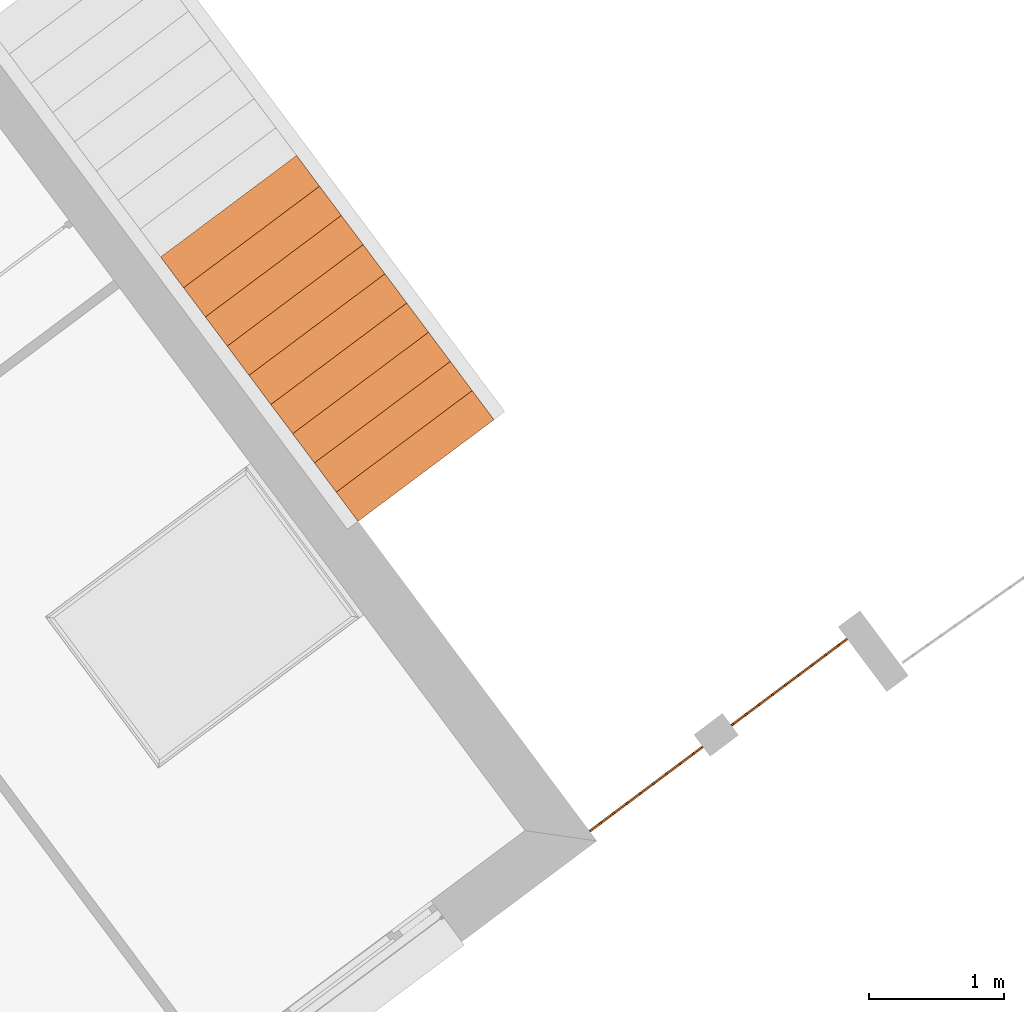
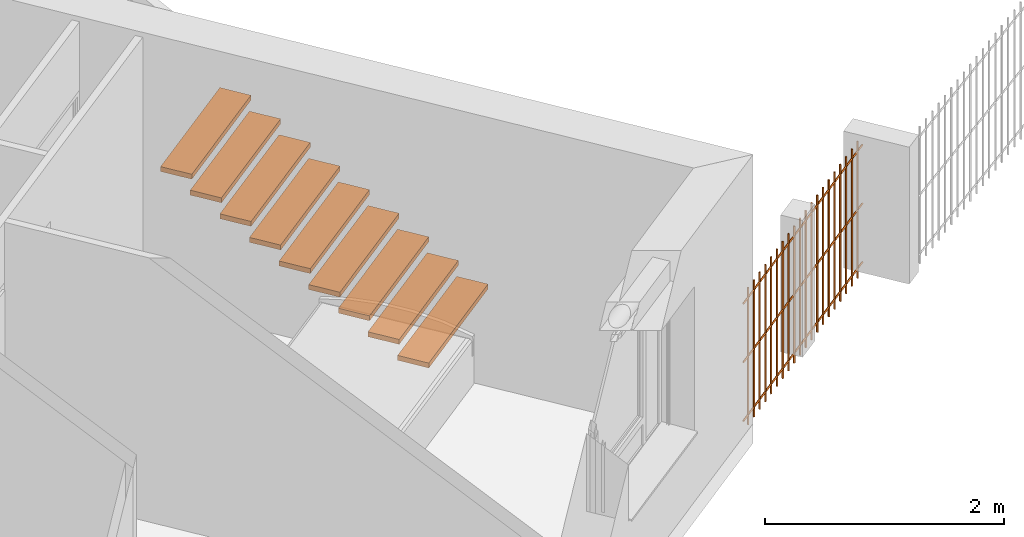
# One storey, part 184 of 195: 19 proxies, 2 elements without a shape of their own.
"""IFC2X3 building model written with IfcOpenShell, lengths in metres."""

from ifc_helpers import new_model, entity, si_unit, converted_unit, derived_unit, money_unit, direction, frame, origin_with_axes, place, context, subcontext, project, spatial, faceted_brep, material, type_object, element, aggregate, save


model = new_model("IFC2X3")

# Units and contexts
model_context = context("Model", 3, precision=1e-05, world=origin_with_axes(), true_north=direction((0.0, 1.0)))
body_context = subcontext(model_context, "Body", "Model", "MODEL_VIEW")
ifc_project = project(units=[si_unit("LENGTHUNIT", "METRE"), si_unit("AREAUNIT", "SQUARE_METRE"), si_unit("VOLUMEUNIT", "CUBIC_METRE"), converted_unit("PLANEANGLEUNIT", "DEGREE", entity("IfcPlaneAngleMeasure", 0.0174532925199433), si_unit("PLANEANGLEUNIT", "RADIAN"), dimensions=[0, 0, 0, 0, 0, 0, 0]), money_unit("CHF"), converted_unit("TIMEUNIT", "Year", entity("IfcTimeMeasure", 31557600.0), si_unit("TIMEUNIT", "SECOND"), dimensions=[0, 0, 1, 0, 0, 0, 0]), si_unit("MASSUNIT", "GRAM", prefix="KILO"), si_unit("THERMODYNAMICTEMPERATUREUNIT", "DEGREE_CELSIUS"), si_unit("LUMINOUSINTENSITYUNIT", "LUMEN"), si_unit("ENERGYUNIT", "JOULE", prefix="MEGA"), derived_unit("THERMALCONDUCTANCEUNIT", [(si_unit("POWERUNIT", "WATT"), 1), (si_unit("LENGTHUNIT", "METRE"), -1), (si_unit("THERMODYNAMICTEMPERATUREUNIT", "KELVIN"), -1)]), derived_unit("SPECIFICHEATCAPACITYUNIT", [(si_unit("ENERGYUNIT", "JOULE"), 1), (si_unit("MASSUNIT", "GRAM", prefix="KILO"), -1), (si_unit("THERMODYNAMICTEMPERATUREUNIT", "KELVIN"), -1)]), derived_unit("MASSDENSITYUNIT", [(si_unit("MASSUNIT", "GRAM", prefix="KILO"), 1), (si_unit("VOLUMEUNIT", "CUBIC_METRE"), -1)])], contexts=[model_context])

# Site, building, storey
site_placement = place(None, origin_with_axes())
site = spatial("IfcSite", under=ifc_project, at=site_placement, Name="Site", CompositionType="ELEMENT")
building_placement = place(site_placement, origin_with_axes())
building = spatial("IfcBuilding", under=site, at=building_placement, Name="Bâtiment", CompositionType="ELEMENT")
storey_placement = place(building_placement, origin_with_axes())
storey = spatial("IfcBuildingStorey", under=building, at=storey_placement, Name="rdc", CompositionType="ELEMENT", Elevation=0.0)

# Stair, proxies
stair_1_placement = place(storey_placement, frame((9546.930300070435, -1076.908665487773, 57.33248236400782), z_axis=(0.0, 0.0, 1.0), x_axis=(0.7879032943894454, -0.6157989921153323, 0.0)))
stair_1 = element("IfcStair", 1, at=stair_1_placement, inside=storey, Name="ESC-028", ShapeType="NOTDEFINED")
ifc_material = material(Name="Lame d'air 275581351")
building_element_proxy_type_1 = type_object("IfcBuildingElementProxyType", Name="IfcBuildingElementProxy", PredefinedType="NOTDEFINED")
proxy_1_placement = place(stair_1_placement, frame((-0.1274260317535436, -0.4679611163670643, 0.1666666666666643), z_axis=(0.0, 0.0, 1.0), x_axis=(-0.2627340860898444, -0.9648682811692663, 0.0)))
proxy_1 = element("IfcBuildingElementProxy", 2, at=proxy_1_placement, type_object=building_element_proxy_type_1, material=ifc_material, Name="MARCHE-537", context=body_context, shape_type="Brep", body=[
    faceted_brep([(-0.4850000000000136, 0.0, -0.04999999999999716), (-0.4850000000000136, 0.0, 0.0), (0.7724423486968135, -2.853539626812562e-10, 0.0), (0.7724423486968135, -2.853539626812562e-10, -0.04999999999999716), (-0.4849999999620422, -0.2849999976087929, -0.04999999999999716), (-0.4849999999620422, -0.2849999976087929, 0.0), (0.7724423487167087, -0.2849999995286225, 0.0), (0.7724423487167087, -0.2849999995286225, -0.04999999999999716)], [[[0, 1, 2, 3]], [[4, 5, 1, 0]], [[1, 5, 6, 2]], [[3, 2, 6, 7]], [[0, 3, 7, 4]], [[7, 6, 5, 4]]]),
])
proxy_2_placement = place(stair_1_placement, frame((-0.387940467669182, -0.3970229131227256, 0.3333333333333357), z_axis=(0.0, 0.0, 1.0), x_axis=(-0.2627340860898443, -0.9648682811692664, 0.0)))
proxy_2 = element("IfcBuildingElementProxy", 3, at=proxy_2_placement, type_object=building_element_proxy_type_1, material=ifc_material, Name="MARCHE-538", context=body_context, shape_type="Brep", body=[
    faceted_brep([(-0.4849999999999, 0.0, -0.04999999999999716), (-0.4849999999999, 0.0, 0.0), (0.7724423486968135, -2.852402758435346e-10, 0.0), (0.7724423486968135, -2.852402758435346e-10, -0.04999999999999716), (-0.4849999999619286, -0.2849999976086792, -0.04999999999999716), (-0.4849999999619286, -0.2849999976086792, 0.0), (0.7724423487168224, -0.2849999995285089, 0.0), (0.7724423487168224, -0.2849999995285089, -0.04999999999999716)], [[[0, 1, 2, 3]], [[4, 5, 1, 0]], [[1, 5, 6, 2]], [[3, 2, 6, 7]], [[0, 3, 7, 4]], [[7, 6, 5, 4]]]),
])
proxy_3_placement = place(stair_1_placement, frame((-0.6484549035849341, -0.3260847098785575, 0.5), z_axis=(0.0, 0.0, 1.0), x_axis=(-0.2627340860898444, -0.9648682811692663, 0.0)))
proxy_3 = element("IfcBuildingElementProxy", 4, at=proxy_3_placement, type_object=building_element_proxy_type_1, material=ifc_material, Name="MARCHE-539", context=body_context, shape_type="Brep", body=[
    faceted_brep([(-0.4849999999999, 0.0, -0.04999999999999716), (-0.4849999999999, 0.0, 0.0), (0.7724423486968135, -2.854676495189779e-10, 0.0), (0.7724423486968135, -2.854676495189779e-10, -0.04999999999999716), (-0.4849999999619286, -0.2849999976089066, -0.04999999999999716), (-0.4849999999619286, -0.2849999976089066, 0.0), (0.7724423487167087, -0.2849999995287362, 0.0), (0.7724423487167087, -0.2849999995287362, -0.04999999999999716)], [[[0, 1, 2, 3]], [[4, 5, 1, 0]], [[1, 5, 6, 2]], [[3, 2, 6, 7]], [[0, 3, 7, 4]], [[7, 6, 5, 4]]]),
])
proxy_4_placement = place(stair_1_placement, frame((-0.9089693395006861, -0.2551465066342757, 0.6666666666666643), z_axis=(0.0, 0.0, 1.0), x_axis=(-0.2627340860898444, -0.9648682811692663, 0.0)))
proxy_4 = element("IfcBuildingElementProxy", 5, at=proxy_4_placement, type_object=building_element_proxy_type_1, material=ifc_material, Name="MARCHE-540", context=body_context, shape_type="Brep", body=[
    faceted_brep([(-0.4850000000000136, 0.0, -0.04999999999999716), (-0.4850000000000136, 0.0, 0.0), (0.7724423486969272, -2.852402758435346e-10, 0.0), (0.7724423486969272, -2.852402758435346e-10, -0.04999999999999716), (-0.4849999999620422, -0.2849999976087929, -0.04999999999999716), (-0.4849999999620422, -0.2849999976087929, 0.0), (0.7724423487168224, -0.2849999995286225, 0.0), (0.7724423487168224, -0.2849999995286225, -0.04999999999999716)], [[[0, 1, 2, 3]], [[4, 5, 1, 0]], [[1, 5, 6, 2]], [[3, 2, 6, 7]], [[0, 3, 7, 4]], [[7, 6, 5, 4]]]),
])
proxy_5_placement = place(stair_1_placement, frame((-1.169483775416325, -0.1842083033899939, 0.8333333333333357), z_axis=(0.0, 0.0, 1.0), x_axis=(-0.2627340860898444, -0.9648682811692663, 0.0)))
proxy_5 = element("IfcBuildingElementProxy", 6, at=proxy_5_placement, type_object=building_element_proxy_type_1, material=ifc_material, Name="MARCHE-541", context=body_context, shape_type="Brep", body=[
    faceted_brep([(-0.4850000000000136, 0.0, -0.04999999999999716), (-0.4850000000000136, 0.0, 0.0), (0.7724423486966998, -2.853539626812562e-10, 0.0), (0.7724423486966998, -2.853539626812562e-10, -0.04999999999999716), (-0.4849999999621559, -0.2849999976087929, -0.04999999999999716), (-0.4849999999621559, -0.2849999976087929, 0.0), (0.772442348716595, -0.2849999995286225, 0.0), (0.772442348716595, -0.2849999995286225, -0.04999999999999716)], [[[0, 1, 2, 3]], [[4, 5, 1, 0]], [[1, 5, 6, 2]], [[3, 2, 6, 7]], [[0, 3, 7, 4]], [[7, 6, 5, 4]]]),
])
proxy_6_placement = place(stair_1_placement, frame((-1.429998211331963, -0.113270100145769, 1.0), z_axis=(0.0, 0.0, 1.0), x_axis=(-0.2627340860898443, -0.9648682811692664, 0.0)))
proxy_6 = element("IfcBuildingElementProxy", 7, at=proxy_6_placement, type_object=building_element_proxy_type_1, material=ifc_material, Name="MARCHE-542", context=body_context, shape_type="Brep", body=[
    faceted_brep([(-0.4850000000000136, 0.0, -0.04999999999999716), (-0.4850000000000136, 0.0, 0.0), (0.7724423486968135, -2.853539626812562e-10, 0.0), (0.7724423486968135, -2.853539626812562e-10, -0.04999999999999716), (-0.4849999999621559, -0.2849999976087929, -0.04999999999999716), (-0.4849999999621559, -0.2849999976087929, 0.0), (0.7724423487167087, -0.2849999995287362, 0.0), (0.7724423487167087, -0.2849999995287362, -0.04999999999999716)], [[[0, 1, 2, 3]], [[4, 5, 1, 0]], [[1, 5, 6, 2]], [[3, 2, 6, 7]], [[0, 3, 7, 4]], [[7, 6, 5, 4]]]),
])
proxy_7_placement = place(stair_1_placement, frame((-1.690512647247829, -0.0423318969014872, 1.166666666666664), z_axis=(0.0, 0.0, 1.0), x_axis=(-0.2627340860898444, -0.9648682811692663, 0.0)))
proxy_7 = element("IfcBuildingElementProxy", 8, at=proxy_7_placement, type_object=building_element_proxy_type_1, material=ifc_material, Name="MARCHE-543", context=body_context, shape_type="Brep", body=[
    faceted_brep([(-0.4849999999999, 0.0, -0.04999999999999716), (-0.4849999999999, 0.0, 0.0), (0.7724423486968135, -2.854676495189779e-10, 0.0), (0.7724423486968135, -2.854676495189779e-10, -0.04999999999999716), (-0.4849999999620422, -0.2849999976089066, -0.04999999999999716), (-0.4849999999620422, -0.2849999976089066, 0.0), (0.7724423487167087, -0.2849999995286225, 0.0), (0.7724423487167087, -0.2849999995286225, -0.04999999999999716)], [[[0, 1, 2, 3]], [[4, 5, 1, 0]], [[1, 5, 6, 2]], [[3, 2, 6, 7]], [[0, 3, 7, 4]], [[7, 6, 5, 4]]]),
])
proxy_8_placement = place(stair_1_placement, frame((-2.211541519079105, 0.09954450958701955, 1.5), z_axis=(0.0, 0.0, 1.0), x_axis=(-0.2627340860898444, -0.9648682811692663, 0.0)))
proxy_8 = element("IfcBuildingElementProxy", 9, at=proxy_8_placement, type_object=building_element_proxy_type_1, material=ifc_material, Name="MARCHE-545", context=body_context, shape_type="Brep", body=[
    faceted_brep([(-0.4850000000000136, 0.0, -0.04999999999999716), (-0.4850000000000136, 0.0, 0.0), (0.7724423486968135, -2.853539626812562e-10, 0.0), (0.7724423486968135, -2.853539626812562e-10, -0.04999999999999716), (-0.4849999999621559, -0.2849999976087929, -0.04999999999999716), (-0.4849999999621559, -0.2849999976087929, 0.0), (0.7724423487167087, -0.2849999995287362, 0.0), (0.7724423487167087, -0.2849999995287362, -0.04999999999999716)], [[[0, 1, 2, 3]], [[4, 5, 1, 0]], [[1, 5, 6, 2]], [[3, 2, 6, 7]], [[0, 3, 7, 4]], [[7, 6, 5, 4]]]),
])
proxy_9_placement = place(stair_1_placement, frame((-1.951027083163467, 0.02860630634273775, 1.333333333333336), z_axis=(0.0, 0.0, 1.0), x_axis=(-0.2627340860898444, -0.9648682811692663, 0.0)))
proxy_9 = element("IfcBuildingElementProxy", 10, at=proxy_9_placement, type_object=building_element_proxy_type_1, material=ifc_material, Name="MARCHE-544", context=body_context, shape_type="Brep", body=[
    faceted_brep([(-0.4849999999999, 0.0, -0.04999999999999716), (-0.4849999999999, 0.0, 0.0), (0.7724423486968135, -2.854676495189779e-10, 0.0), (0.7724423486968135, -2.854676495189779e-10, -0.04999999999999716), (-0.4849999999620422, -0.2849999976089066, -0.04999999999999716), (-0.4849999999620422, -0.2849999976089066, 0.0), (0.7724423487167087, -0.2849999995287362, 0.0), (0.7724423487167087, -0.2849999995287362, -0.04999999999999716)], [[[0, 1, 2, 3]], [[4, 5, 1, 0]], [[1, 5, 6, 2]], [[3, 2, 6, 7]], [[0, 3, 7, 4]], [[7, 6, 5, 4]]]),
])
aggregate(stair_1, [proxy_1, proxy_2, proxy_3, proxy_4, proxy_5, proxy_6, proxy_7, proxy_8, proxy_9])

stair_2_placement = place(storey_placement, frame((9546.930300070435, -1076.908665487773, 57.33248236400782), z_axis=(0.0, 0.0, 1.0), x_axis=(0.7879032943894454, -0.6157989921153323, 0.0)))
stair_2 = element("IfcStair", 11, at=stair_2_placement, inside=storey, Name="ESC-028", ShapeType="NOTDEFINED")
proxy_10_placement = place(stair_2_placement, frame((-0.1274260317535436, -0.4679611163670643, 0.1666666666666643), z_axis=(0.0, 0.0, 1.0), x_axis=(-0.2627340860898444, -0.9648682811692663, 0.0)))
proxy_10 = element("IfcBuildingElementProxy", 12, at=proxy_10_placement, type_object=building_element_proxy_type_1, material=ifc_material, Name="MARCHE-537", context=body_context, shape_type="Brep", body=[
    faceted_brep([(-0.4850000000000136, 0.0, -0.04999999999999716), (-0.4850000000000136, 0.0, 0.0), (0.7724423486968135, -2.853539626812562e-10, 0.0), (0.7724423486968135, -2.853539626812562e-10, -0.04999999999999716), (-0.4849999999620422, -0.2849999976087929, -0.04999999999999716), (-0.4849999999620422, -0.2849999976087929, 0.0), (0.7724423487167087, -0.2849999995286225, 0.0), (0.7724423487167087, -0.2849999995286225, -0.04999999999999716)], [[[0, 1, 2, 3]], [[4, 5, 1, 0]], [[1, 5, 6, 2]], [[3, 2, 6, 7]], [[0, 3, 7, 4]], [[7, 6, 5, 4]]]),
])
proxy_11_placement = place(stair_2_placement, frame((-0.9089693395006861, -0.2551465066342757, 0.6666666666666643), z_axis=(0.0, 0.0, 1.0), x_axis=(-0.2627340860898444, -0.9648682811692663, 0.0)))
proxy_11 = element("IfcBuildingElementProxy", 13, at=proxy_11_placement, type_object=building_element_proxy_type_1, material=ifc_material, Name="MARCHE-540", context=body_context, shape_type="Brep", body=[
    faceted_brep([(-0.4850000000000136, 0.0, -0.04999999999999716), (-0.4850000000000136, 0.0, 0.0), (0.7724423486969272, -2.852402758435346e-10, 0.0), (0.7724423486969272, -2.852402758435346e-10, -0.04999999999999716), (-0.4849999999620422, -0.2849999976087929, -0.04999999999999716), (-0.4849999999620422, -0.2849999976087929, 0.0), (0.7724423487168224, -0.2849999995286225, 0.0), (0.7724423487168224, -0.2849999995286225, -0.04999999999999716)], [[[0, 1, 2, 3]], [[4, 5, 1, 0]], [[1, 5, 6, 2]], [[3, 2, 6, 7]], [[0, 3, 7, 4]], [[7, 6, 5, 4]]]),
])
proxy_12_placement = place(stair_2_placement, frame((-0.6484549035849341, -0.3260847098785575, 0.5), z_axis=(0.0, 0.0, 1.0), x_axis=(-0.2627340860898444, -0.9648682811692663, 0.0)))
proxy_12 = element("IfcBuildingElementProxy", 14, at=proxy_12_placement, type_object=building_element_proxy_type_1, material=ifc_material, Name="MARCHE-539", context=body_context, shape_type="Brep", body=[
    faceted_brep([(-0.4849999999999, 0.0, -0.04999999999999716), (-0.4849999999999, 0.0, 0.0), (0.7724423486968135, -2.854676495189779e-10, 0.0), (0.7724423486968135, -2.854676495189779e-10, -0.04999999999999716), (-0.4849999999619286, -0.2849999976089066, -0.04999999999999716), (-0.4849999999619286, -0.2849999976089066, 0.0), (0.7724423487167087, -0.2849999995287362, 0.0), (0.7724423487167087, -0.2849999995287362, -0.04999999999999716)], [[[0, 1, 2, 3]], [[4, 5, 1, 0]], [[1, 5, 6, 2]], [[3, 2, 6, 7]], [[0, 3, 7, 4]], [[7, 6, 5, 4]]]),
])
proxy_13_placement = place(stair_2_placement, frame((-1.169483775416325, -0.1842083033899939, 0.8333333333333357), z_axis=(0.0, 0.0, 1.0), x_axis=(-0.2627340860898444, -0.9648682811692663, 0.0)))
proxy_13 = element("IfcBuildingElementProxy", 15, at=proxy_13_placement, type_object=building_element_proxy_type_1, material=ifc_material, Name="MARCHE-541", context=body_context, shape_type="Brep", body=[
    faceted_brep([(-0.4850000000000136, 0.0, -0.04999999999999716), (-0.4850000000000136, 0.0, 0.0), (0.7724423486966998, -2.853539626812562e-10, 0.0), (0.7724423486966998, -2.853539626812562e-10, -0.04999999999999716), (-0.4849999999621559, -0.2849999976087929, -0.04999999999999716), (-0.4849999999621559, -0.2849999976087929, 0.0), (0.772442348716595, -0.2849999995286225, 0.0), (0.772442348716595, -0.2849999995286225, -0.04999999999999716)], [[[0, 1, 2, 3]], [[4, 5, 1, 0]], [[1, 5, 6, 2]], [[3, 2, 6, 7]], [[0, 3, 7, 4]], [[7, 6, 5, 4]]]),
])
proxy_14_placement = place(stair_2_placement, frame((-1.429998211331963, -0.113270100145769, 1.0), z_axis=(0.0, 0.0, 1.0), x_axis=(-0.2627340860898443, -0.9648682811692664, 0.0)))
proxy_14 = element("IfcBuildingElementProxy", 16, at=proxy_14_placement, type_object=building_element_proxy_type_1, material=ifc_material, Name="MARCHE-542", context=body_context, shape_type="Brep", body=[
    faceted_brep([(-0.4850000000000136, 0.0, -0.04999999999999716), (-0.4850000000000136, 0.0, 0.0), (0.7724423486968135, -2.853539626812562e-10, 0.0), (0.7724423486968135, -2.853539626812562e-10, -0.04999999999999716), (-0.4849999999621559, -0.2849999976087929, -0.04999999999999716), (-0.4849999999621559, -0.2849999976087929, 0.0), (0.7724423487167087, -0.2849999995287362, 0.0), (0.7724423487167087, -0.2849999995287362, -0.04999999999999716)], [[[0, 1, 2, 3]], [[4, 5, 1, 0]], [[1, 5, 6, 2]], [[3, 2, 6, 7]], [[0, 3, 7, 4]], [[7, 6, 5, 4]]]),
])
proxy_15_placement = place(stair_2_placement, frame((-0.387940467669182, -0.3970229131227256, 0.3333333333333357), z_axis=(0.0, 0.0, 1.0), x_axis=(-0.2627340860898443, -0.9648682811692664, 0.0)))
proxy_15 = element("IfcBuildingElementProxy", 17, at=proxy_15_placement, type_object=building_element_proxy_type_1, material=ifc_material, Name="MARCHE-538", context=body_context, shape_type="Brep", body=[
    faceted_brep([(-0.4849999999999, 0.0, -0.04999999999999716), (-0.4849999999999, 0.0, 0.0), (0.7724423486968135, -2.852402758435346e-10, 0.0), (0.7724423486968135, -2.852402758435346e-10, -0.04999999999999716), (-0.4849999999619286, -0.2849999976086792, -0.04999999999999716), (-0.4849999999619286, -0.2849999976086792, 0.0), (0.7724423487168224, -0.2849999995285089, 0.0), (0.7724423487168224, -0.2849999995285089, -0.04999999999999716)], [[[0, 1, 2, 3]], [[4, 5, 1, 0]], [[1, 5, 6, 2]], [[3, 2, 6, 7]], [[0, 3, 7, 4]], [[7, 6, 5, 4]]]),
])
proxy_16_placement = place(stair_2_placement, frame((-1.690512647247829, -0.0423318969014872, 1.166666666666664), z_axis=(0.0, 0.0, 1.0), x_axis=(-0.2627340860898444, -0.9648682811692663, 0.0)))
proxy_16 = element("IfcBuildingElementProxy", 18, at=proxy_16_placement, type_object=building_element_proxy_type_1, material=ifc_material, Name="MARCHE-543", context=body_context, shape_type="Brep", body=[
    faceted_brep([(-0.4849999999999, 0.0, -0.04999999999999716), (-0.4849999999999, 0.0, 0.0), (0.7724423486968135, -2.854676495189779e-10, 0.0), (0.7724423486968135, -2.854676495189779e-10, -0.04999999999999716), (-0.4849999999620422, -0.2849999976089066, -0.04999999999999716), (-0.4849999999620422, -0.2849999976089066, 0.0), (0.7724423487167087, -0.2849999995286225, 0.0), (0.7724423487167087, -0.2849999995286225, -0.04999999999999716)], [[[0, 1, 2, 3]], [[4, 5, 1, 0]], [[1, 5, 6, 2]], [[3, 2, 6, 7]], [[0, 3, 7, 4]], [[7, 6, 5, 4]]]),
])
proxy_17_placement = place(stair_2_placement, frame((-2.211541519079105, 0.09954450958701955, 1.5), z_axis=(0.0, 0.0, 1.0), x_axis=(-0.2627340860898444, -0.9648682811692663, 0.0)))
proxy_17 = element("IfcBuildingElementProxy", 19, at=proxy_17_placement, type_object=building_element_proxy_type_1, material=ifc_material, Name="MARCHE-545", context=body_context, shape_type="Brep", body=[
    faceted_brep([(-0.4850000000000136, 0.0, -0.04999999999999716), (-0.4850000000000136, 0.0, 0.0), (0.7724423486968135, -2.853539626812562e-10, 0.0), (0.7724423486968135, -2.853539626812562e-10, -0.04999999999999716), (-0.4849999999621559, -0.2849999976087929, -0.04999999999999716), (-0.4849999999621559, -0.2849999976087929, 0.0), (0.7724423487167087, -0.2849999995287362, 0.0), (0.7724423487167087, -0.2849999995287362, -0.04999999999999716)], [[[0, 1, 2, 3]], [[4, 5, 1, 0]], [[1, 5, 6, 2]], [[3, 2, 6, 7]], [[0, 3, 7, 4]], [[7, 6, 5, 4]]]),
])
proxy_18_placement = place(stair_2_placement, frame((-1.951027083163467, 0.02860630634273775, 1.333333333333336), z_axis=(0.0, 0.0, 1.0), x_axis=(-0.2627340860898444, -0.9648682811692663, 0.0)))
proxy_18 = element("IfcBuildingElementProxy", 20, at=proxy_18_placement, type_object=building_element_proxy_type_1, material=ifc_material, Name="MARCHE-544", context=body_context, shape_type="Brep", body=[
    faceted_brep([(-0.4849999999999, 0.0, -0.04999999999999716), (-0.4849999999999, 0.0, 0.0), (0.7724423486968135, -2.854676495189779e-10, 0.0), (0.7724423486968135, -2.854676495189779e-10, -0.04999999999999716), (-0.4849999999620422, -0.2849999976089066, -0.04999999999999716), (-0.4849999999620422, -0.2849999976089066, 0.0), (0.7724423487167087, -0.2849999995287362, 0.0), (0.7724423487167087, -0.2849999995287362, -0.04999999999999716)], [[[0, 1, 2, 3]], [[4, 5, 1, 0]], [[1, 5, 6, 2]], [[3, 2, 6, 7]], [[0, 3, 7, 4]], [[7, 6, 5, 4]]]),
])
aggregate(stair_2, [proxy_10, proxy_11, proxy_12, proxy_13, proxy_14, proxy_15, proxy_16, proxy_17, proxy_18])

# Proxy
building_element_proxy_type_2 = type_object("IfcBuildingElementProxyType", Name="Grille anti-effraction", PredefinedType="NOTDEFINED")
proxy_19_placement = place(storey_placement, frame((9548.650055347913, -1079.202436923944, 57.6), z_axis=(0.0, 0.0, 1.0), x_axis=(-0.801162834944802, -0.598446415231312, 0.0)))
element("IfcBuildingElementProxy", 21, at=proxy_19_placement, inside=storey, type_object=building_element_proxy_type_2, Name="Obj.-010", context=body_context, shape_type="Brep", body=[
    faceted_brep([(1.262547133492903, -0.01, 0.1), (1.262547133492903, 0.0, 0.09000000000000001), (1.262547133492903, 0.01, 0.1), (1.262547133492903, 0.0, 0.11), (-1.262547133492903, -0.01, 0.1000000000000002), (-1.262547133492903, 0.0, 0.09000000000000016), (-1.262547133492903, 0.01, 0.1000000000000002), (-1.262547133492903, 0.0, 0.1100000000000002)], [[[0, 1, 2, 3]], [[0, 4, 5, 1]], [[1, 5, 6, 2]], [[2, 6, 7, 3]], [[3, 7, 4, 0]], [[4, 7, 6, 5]]]),
    faceted_brep([(1.262547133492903, -0.01, 0.7), (1.262547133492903, 0.0, 0.69), (1.262547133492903, 0.01, 0.7), (1.262547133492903, 0.0, 0.71), (-1.262547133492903, -0.01, 0.7000000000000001), (-1.262547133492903, 0.0, 0.6900000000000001), (-1.262547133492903, 0.01, 0.7000000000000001), (-1.262547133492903, 0.0, 0.7100000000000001)], [[[0, 1, 2, 3]], [[0, 4, 5, 1]], [[1, 5, 6, 2]], [[2, 6, 7, 3]], [[3, 7, 4, 0]], [[4, 7, 6, 5]]]),
    faceted_brep([(1.262547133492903, -0.01, 1.3), (1.262547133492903, 0.0, 1.29), (1.262547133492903, 0.01, 1.3), (1.262547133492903, 0.0, 1.31), (-1.262547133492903, -0.01, 1.3), (-1.262547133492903, 0.0, 1.29), (-1.262547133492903, 0.01, 1.3), (-1.262547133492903, 0.0, 1.31)], [[[0, 1, 2, 3]], [[0, 4, 5, 1]], [[1, 5, 6, 2]], [[2, 6, 7, 3]], [[3, 7, 4, 0]], [[4, 7, 6, 5]]]),
    faceted_brep([(1.162547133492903, -0.01, 0.0), (1.152547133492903, 0.0, 0.0), (1.162547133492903, 0.01, 0.0), (1.172547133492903, 0.0, 0.0), (1.162547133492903, -0.01, 1.4), (1.152547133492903, 0.0, 1.4), (1.162547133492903, 0.01, 1.4), (1.172547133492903, 0.0, 1.4)], [[[0, 1, 2, 3]], [[0, 4, 5, 1]], [[1, 5, 6, 2]], [[2, 6, 7, 3]], [[3, 7, 4, 0]], [[4, 7, 6, 5]]]),
    faceted_brep([(1.040173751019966, -0.01, 0.0), (1.030173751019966, 0.0, 0.0), (1.040173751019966, 0.01, 0.0), (1.050173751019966, 0.0, 0.0), (1.040173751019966, -0.01, 1.4), (1.030173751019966, 0.0, 1.4), (1.040173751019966, 0.01, 1.4), (1.050173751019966, 0.0, 1.4)], [[[0, 1, 2, 3]], [[0, 4, 5, 1]], [[1, 5, 6, 2]], [[2, 6, 7, 3]], [[3, 7, 4, 0]], [[4, 7, 6, 5]]]),
    faceted_brep([(0.9178003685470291, -0.01, 0.0), (0.9078003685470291, 0.0, 0.0), (0.9178003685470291, 0.01, 0.0), (0.9278003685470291, 0.0, 0.0), (0.9178003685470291, -0.01, 1.4), (0.9078003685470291, 0.0, 1.4), (0.9178003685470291, 0.01, 1.4), (0.9278003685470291, 0.0, 1.4)], [[[0, 1, 2, 3]], [[0, 4, 5, 1]], [[1, 5, 6, 2]], [[2, 6, 7, 3]], [[3, 7, 4, 0]], [[4, 7, 6, 5]]]),
    faceted_brep([(0.7954269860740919, -0.01, 0.0), (0.7854269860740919, 0.0, 0.0), (0.7954269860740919, 0.01, 0.0), (0.8054269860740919, 0.0, 0.0), (0.7954269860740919, -0.01, 1.4), (0.7854269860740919, 0.0, 1.4), (0.7954269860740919, 0.01, 1.4), (0.8054269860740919, 0.0, 1.4)], [[[0, 1, 2, 3]], [[0, 4, 5, 1]], [[1, 5, 6, 2]], [[2, 6, 7, 3]], [[3, 7, 4, 0]], [[4, 7, 6, 5]]]),
    faceted_brep([(0.6730536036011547, -0.01, 0.0), (0.6630536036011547, 0.0, 0.0), (0.6730536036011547, 0.01, 0.0), (0.6830536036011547, 0.0, 0.0), (0.6730536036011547, -0.01, 1.4), (0.6630536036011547, 0.0, 1.4), (0.6730536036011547, 0.01, 1.4), (0.6830536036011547, 0.0, 1.4)], [[[0, 1, 2, 3]], [[0, 4, 5, 1]], [[1, 5, 6, 2]], [[2, 6, 7, 3]], [[3, 7, 4, 0]], [[4, 7, 6, 5]]]),
    faceted_brep([(0.5506802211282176, -0.01, 0.0), (0.5406802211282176, 0.0, 0.0), (0.5506802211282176, 0.01, 0.0), (0.5606802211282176, 0.0, 0.0), (0.5506802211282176, -0.01, 1.4), (0.5406802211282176, 0.0, 1.4), (0.5506802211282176, 0.01, 1.4), (0.5606802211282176, 0.0, 1.4)], [[[0, 1, 2, 3]], [[0, 4, 5, 1]], [[1, 5, 6, 2]], [[2, 6, 7, 3]], [[3, 7, 4, 0]], [[4, 7, 6, 5]]]),
    faceted_brep([(0.4283068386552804, -0.01, 0.0), (0.4183068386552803, 0.0, 0.0), (0.4283068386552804, 0.01, 0.0), (0.4383068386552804, 0.0, 0.0), (0.4283068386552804, -0.01, 1.4), (0.4183068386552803, 0.0, 1.4), (0.4283068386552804, 0.01, 1.4), (0.4383068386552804, 0.0, 1.4)], [[[0, 1, 2, 3]], [[0, 4, 5, 1]], [[1, 5, 6, 2]], [[2, 6, 7, 3]], [[3, 7, 4, 0]], [[4, 7, 6, 5]]]),
    faceted_brep([(0.3059334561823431, -0.01, 0.0), (0.2959334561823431, 0.0, 0.0), (0.3059334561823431, 0.01, 0.0), (0.3159334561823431, 0.0, 0.0), (0.3059334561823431, -0.01, 1.4), (0.2959334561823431, 0.0, 1.4), (0.3059334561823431, 0.01, 1.4), (0.3159334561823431, 0.0, 1.4)], [[[0, 1, 2, 3]], [[0, 4, 5, 1]], [[1, 5, 6, 2]], [[2, 6, 7, 3]], [[3, 7, 4, 0]], [[4, 7, 6, 5]]]),
    faceted_brep([(0.1835600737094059, -0.01, 0.0), (0.1735600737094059, 0.0, 0.0), (0.1835600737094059, 0.01, 0.0), (0.1935600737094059, 0.0, 0.0), (0.1835600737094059, -0.01, 1.4), (0.1735600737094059, 0.0, 1.4), (0.1835600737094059, 0.01, 1.4), (0.1935600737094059, 0.0, 1.4)], [[[0, 1, 2, 3]], [[0, 4, 5, 1]], [[1, 5, 6, 2]], [[2, 6, 7, 3]], [[3, 7, 4, 0]], [[4, 7, 6, 5]]]),
    faceted_brep([(0.06118669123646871, -0.01, 0.0), (0.05118669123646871, 0.0, 0.0), (0.06118669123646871, 0.01, 0.0), (0.0711866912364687, 0.0, 0.0), (0.06118669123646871, -0.01, 1.4), (0.05118669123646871, 0.0, 1.4), (0.06118669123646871, 0.01, 1.4), (0.0711866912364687, 0.0, 1.4)], [[[0, 1, 2, 3]], [[0, 4, 5, 1]], [[1, 5, 6, 2]], [[2, 6, 7, 3]], [[3, 7, 4, 0]], [[4, 7, 6, 5]]]),
    faceted_brep([(-0.0611866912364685, -0.01, 0.0), (-0.0711866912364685, 0.0, 0.0), (-0.0611866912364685, 0.01, 0.0), (-0.0511866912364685, 0.0, 0.0), (-0.0611866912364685, -0.01, 1.4), (-0.0711866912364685, 0.0, 1.4), (-0.0611866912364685, 0.01, 1.4), (-0.0511866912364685, 0.0, 1.4)], [[[0, 1, 2, 3]], [[0, 4, 5, 1]], [[1, 5, 6, 2]], [[2, 6, 7, 3]], [[3, 7, 4, 0]], [[4, 7, 6, 5]]]),
    faceted_brep([(-0.1835600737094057, -0.01, 0.0), (-0.1935600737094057, 0.0, 0.0), (-0.1835600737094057, 0.01, 0.0), (-0.1735600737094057, 0.0, 0.0), (-0.1835600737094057, -0.01, 1.4), (-0.1935600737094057, 0.0, 1.4), (-0.1835600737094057, 0.01, 1.4), (-0.1735600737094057, 0.0, 1.4)], [[[0, 1, 2, 3]], [[0, 4, 5, 1]], [[1, 5, 6, 2]], [[2, 6, 7, 3]], [[3, 7, 4, 0]], [[4, 7, 6, 5]]]),
    faceted_brep([(-0.3059334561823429, -0.01, 0.0), (-0.3159334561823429, 0.0, 0.0), (-0.3059334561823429, 0.01, 0.0), (-0.2959334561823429, 0.0, 0.0), (-0.3059334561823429, -0.01, 1.4), (-0.3159334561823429, 0.0, 1.4), (-0.3059334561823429, 0.01, 1.4), (-0.2959334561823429, 0.0, 1.4)], [[[0, 1, 2, 3]], [[0, 4, 5, 1]], [[1, 5, 6, 2]], [[2, 6, 7, 3]], [[3, 7, 4, 0]], [[4, 7, 6, 5]]]),
    faceted_brep([(-0.4283068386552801, -0.01, 0.0), (-0.4383068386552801, 0.0, 0.0), (-0.4283068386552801, 0.01, 0.0), (-0.4183068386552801, 0.0, 0.0), (-0.4283068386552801, -0.01, 1.4), (-0.4383068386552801, 0.0, 1.4), (-0.4283068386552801, 0.01, 1.4), (-0.4183068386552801, 0.0, 1.4)], [[[0, 1, 2, 3]], [[0, 4, 5, 1]], [[1, 5, 6, 2]], [[2, 6, 7, 3]], [[3, 7, 4, 0]], [[4, 7, 6, 5]]]),
    faceted_brep([(-0.5506802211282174, -0.01, 0.0), (-0.5606802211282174, 0.0, 0.0), (-0.5506802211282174, 0.01, 0.0), (-0.5406802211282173, 0.0, 0.0), (-0.5506802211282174, -0.01, 1.4), (-0.5606802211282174, 0.0, 1.4), (-0.5506802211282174, 0.01, 1.4), (-0.5406802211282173, 0.0, 1.4)], [[[0, 1, 2, 3]], [[0, 4, 5, 1]], [[1, 5, 6, 2]], [[2, 6, 7, 3]], [[3, 7, 4, 0]], [[4, 7, 6, 5]]]),
    faceted_brep([(-0.6730536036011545, -0.01, 0.0), (-0.6830536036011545, 0.0, 0.0), (-0.6730536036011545, 0.01, 0.0), (-0.6630536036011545, 0.0, 0.0), (-0.6730536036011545, -0.01, 1.4), (-0.6830536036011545, 0.0, 1.4), (-0.6730536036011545, 0.01, 1.4), (-0.6630536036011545, 0.0, 1.4)], [[[0, 1, 2, 3]], [[0, 4, 5, 1]], [[1, 5, 6, 2]], [[2, 6, 7, 3]], [[3, 7, 4, 0]], [[4, 7, 6, 5]]]),
    faceted_brep([(-0.7954269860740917, -0.01, 0.0), (-0.8054269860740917, 0.0, 0.0), (-0.7954269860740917, 0.01, 0.0), (-0.7854269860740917, 0.0, 0.0), (-0.7954269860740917, -0.01, 1.4), (-0.8054269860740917, 0.0, 1.4), (-0.7954269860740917, 0.01, 1.4), (-0.7854269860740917, 0.0, 1.4)], [[[0, 1, 2, 3]], [[0, 4, 5, 1]], [[1, 5, 6, 2]], [[2, 6, 7, 3]], [[3, 7, 4, 0]], [[4, 7, 6, 5]]]),
    faceted_brep([(-0.9178003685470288, -0.01, 0.0), (-0.9278003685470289, 0.0, 0.0), (-0.9178003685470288, 0.01, 0.0), (-0.9078003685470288, 0.0, 0.0), (-0.9178003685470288, -0.01, 1.4), (-0.9278003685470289, 0.0, 1.4), (-0.9178003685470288, 0.01, 1.4), (-0.9078003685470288, 0.0, 1.4)], [[[0, 1, 2, 3]], [[0, 4, 5, 1]], [[1, 5, 6, 2]], [[2, 6, 7, 3]], [[3, 7, 4, 0]], [[4, 7, 6, 5]]]),
    faceted_brep([(-1.040173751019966, -0.01, 0.0), (-1.050173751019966, 0.0, 0.0), (-1.040173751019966, 0.01, 0.0), (-1.030173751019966, 0.0, 0.0), (-1.040173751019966, -0.01, 1.4), (-1.050173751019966, 0.0, 1.4), (-1.040173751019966, 0.01, 1.4), (-1.030173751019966, 0.0, 1.4)], [[[0, 1, 2, 3]], [[0, 4, 5, 1]], [[1, 5, 6, 2]], [[2, 6, 7, 3]], [[3, 7, 4, 0]], [[4, 7, 6, 5]]]),
    faceted_brep([(-1.162547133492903, -0.01, 0.0), (-1.172547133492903, 0.0, 0.0), (-1.162547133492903, 0.01, 0.0), (-1.152547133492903, 0.0, 0.0), (-1.162547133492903, -0.01, 1.4), (-1.172547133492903, 0.0, 1.4), (-1.162547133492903, 0.01, 1.4), (-1.152547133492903, 0.0, 1.4)], [[[0, 1, 2, 3]], [[0, 4, 5, 1]], [[1, 5, 6, 2]], [[2, 6, 7, 3]], [[3, 7, 4, 0]], [[4, 7, 6, 5]]]),
])

save(model, "model.ifc")
